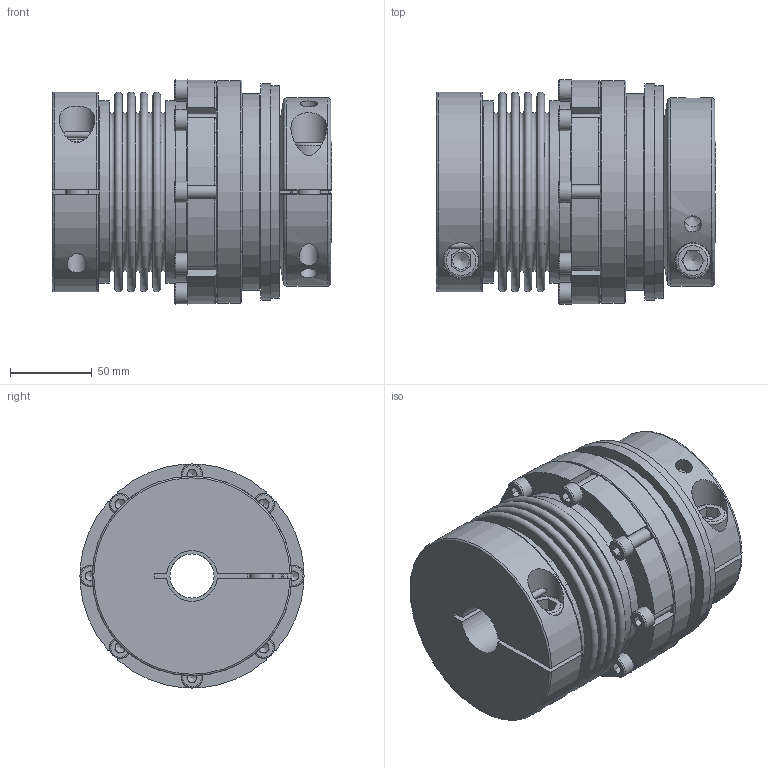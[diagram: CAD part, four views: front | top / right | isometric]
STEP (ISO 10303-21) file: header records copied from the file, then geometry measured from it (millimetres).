
FILE_DESCRIPTION( ( 'Unknown' ), '1' );
FILE_NAME( 'F:/JAKOB-STEP+IGES-Dateien/STEP-Dateien/SKB-KP/SKB-KP 800.stp', 'Unknown', ( 'Unknown' ), ( 'Unknown' ), 'PSStep 10.1', 'Unknown', ' ' );
FILE_SCHEMA( ( 'AUTOMOTIVE_DESIGN { 1 0 10303 214 1 1 1 1 }' ) );
Length unit declared in the file: millimetre
Products named in the file (1): 21221940-ohne Einrollnut
Bounding box: 170.5 x 136.98 x 136.98 mm (x, y, z)
Volume: 1367257.4 mm3; surface area: 318919.7 mm2
Topology: 3 solids, 3 shells, 530 faces, 1469 edges, 938 vertices
Faces by surface type: plane 274, cylinder 110, torus 98, cone 30, sphere 16, bspline 2
Full cylindrical faces by diameter (mm): 1.5 x1, 2.5 x2, 6.8 x9, 8 x8, 10.5 x3, 12 x2, 13 x8, 14 x2, 14.5 x1, 15 x1, 21 x2, 22 x2, 27 x1, 67 x1, 69.8 x1, 70 x2, 78 x1, 80 x1, 80.1 x1, 82.8 x2, 90 x2, 97.6 x2, 110 x5, 111.6 x2, 115.4 x2, 116 x2, 120 x1, 130 x1, 132 x1, 136 x1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
Entity records: 22000 total; most frequent: CARTESIAN_POINT 5420, DIRECTION 2550, ORIENTED_EDGE 2390, EDGE_CURVE 1195, AXIS2_PLACEMENT_3D 1022, VERTEX_POINT 834, EDGE_LOOP 768, FACE_OUTER_BOUND 634
